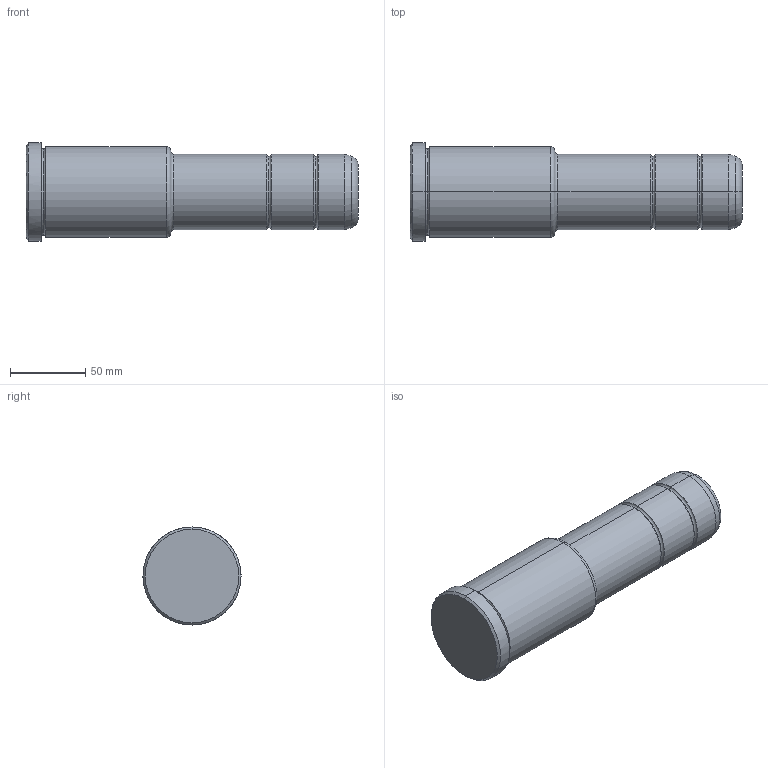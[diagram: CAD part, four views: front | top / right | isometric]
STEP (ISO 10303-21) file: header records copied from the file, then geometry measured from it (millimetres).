
FILE_DESCRIPTION(('CATIA V5 STEP Exchange'),'2;1');
FILE_NAME('C:\Users\Utente\Desktop\IO LAVORO\3D X SITO CF\X SITO\PLASTICA\351\351-50X96X220.stp','2021-11-08T18:58:15+00:00',('none'),('none'),'CATIA Version 5 Release 20 GA (IN-10)','CATIA V5 STEP AP203','none');
FILE_SCHEMA(('CONFIG_CONTROL_DESIGN'));
Length unit declared in the file: millimetre
Products named in the file (1): 351-50X96X220
Bounding box: 220 x 65 x 65 mm (x, y, z)
Volume: 515429.3 mm3; surface area: 43997.3 mm2
Topology: 1 solids, 1 shells, 35 faces, 98 edges, 66 vertices
Faces by surface type: torus 18, cylinder 10, cone 4, plane 3
Entity records: 1198 total; most frequent: CARTESIAN_POINT 256, ORIENTED_EDGE 196, DIRECTION 164, AXIS2_PLACEMENT_3D 116, EDGE_CURVE 98, CIRCLE 80, VERTEX_POINT 66, EDGE_LOOP 36
